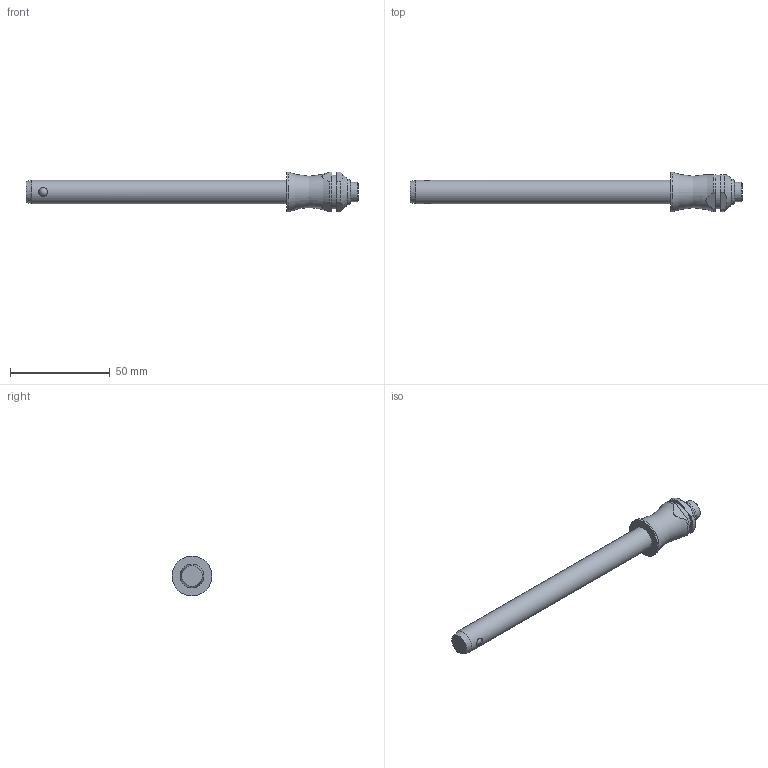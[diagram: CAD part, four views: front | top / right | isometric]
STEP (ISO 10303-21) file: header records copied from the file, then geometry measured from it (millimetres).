
FILE_DESCRIPTION( ( 'STEP AP203' ), '1' );
FILE_NAME( 'C:/Temp/Ganter_Step_05_03_2020/data/3_1/gn113_3/Stainless Steel-Ball lock pin GN 113.3-12-120 (activated).stp', '2020-03-12T08:18:50', ( 'License CC BY-ND 4.0' ), ( 'CADENAS' ), ' ', 'PARTsolutions', ' ' );
FILE_SCHEMA( ( 'CONFIG_CONTROL_DESIGN' ) );
Length unit declared in the file: millimetre
Products named in the file (1): _Stainless Steel-Ball lock pin GN 113.3-12-120 (activated)
Bounding box: 166.35 x 20 x 20 mm (x, y, z)
Volume: 22375.7 mm3; surface area: 7440.3 mm2
Topology: 1 solids, 1 shells, 30 faces, 72 edges, 45 vertices
Faces by surface type: cylinder 12, plane 11, cone 3, torus 2, sphere 2
Full cylindrical faces by diameter (mm): 4.4 x2, 10 x1, 12 x1, 17 x1, 20 x1
Entity records: 1010 total; most frequent: CARTESIAN_POINT 360, DIRECTION 130, ORIENTED_EDGE 102, AXIS2_PLACEMENT_3D 56, EDGE_CURVE 51, EDGE_LOOP 46, VERTEX_POINT 40, FACE_OUTER_BOUND 38
